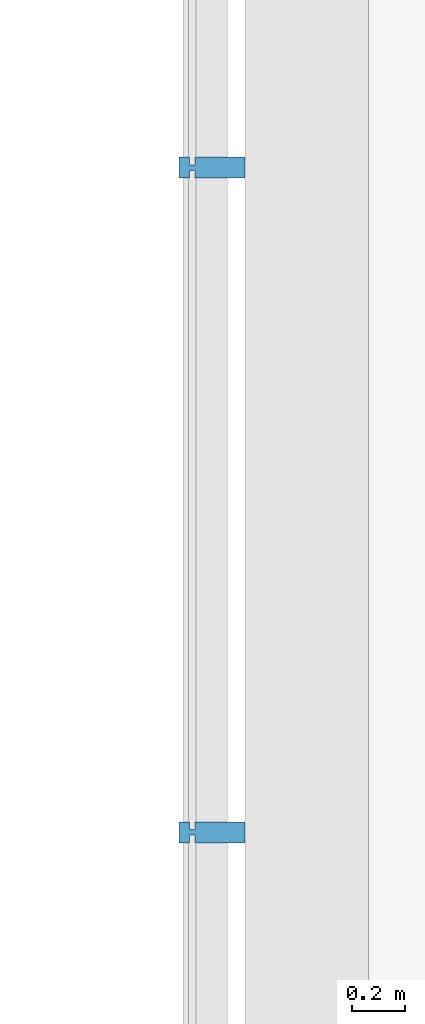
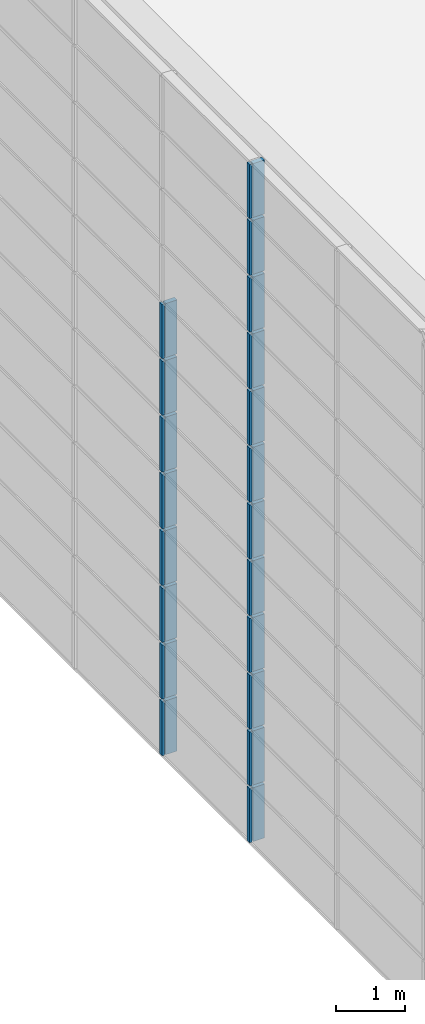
# One storey, part 73 of 105: 20 building element parts, 4 elements without a shape of their own.
"""IFC4 building model written with IfcOpenShell, lengths in millimetres."""

from ifc_helpers import new_model, entity, si_unit, converted_unit, derived_unit, direction, frame, origin_with_axes, place, context, subcontext, project, spatial, triangles, material, element, aggregate, save


model = new_model("IFC4")

# Units and contexts
model_context = context("Model", 3, precision=1e-05, world=origin_with_axes(), true_north=direction((0.0, 1.0)))
body_context = subcontext(model_context, "Body", "Model", "MODEL_VIEW")
ifc_project = project(units=[si_unit("LENGTHUNIT", "METRE", prefix="MILLI"), si_unit("AREAUNIT", "SQUARE_METRE"), si_unit("VOLUMEUNIT", "CUBIC_METRE"), converted_unit("PLANEANGLEUNIT", "DEGREE", entity("IfcLengthMeasure", 0.017453), si_unit("PLANEANGLEUNIT", "RADIAN"), dimensions=[0, 0, 0, 0, 0, 0, 0]), si_unit("SOLIDANGLEUNIT", "STERADIAN"), si_unit("MASSUNIT", "GRAM"), si_unit("TIMEUNIT", "SECOND"), si_unit("THERMODYNAMICTEMPERATUREUNIT", "DEGREE_CELSIUS"), si_unit("LUMINOUSINTENSITYUNIT", "LUMEN"), si_unit("POWERUNIT", "WATT"), derived_unit("THERMALTRANSMITTANCEUNIT", [(si_unit("POWERUNIT", "WATT"), 1), (si_unit("THERMODYNAMICTEMPERATUREUNIT", "KELVIN"), -1), (si_unit("AREAUNIT", "SQUARE_METRE"), -1)])], contexts=[model_context])

# Site, building, storey
site_placement = place(None, origin_with_axes())
site = spatial("IfcSite", under=ifc_project, at=site_placement, Name="Default Site", CompositionType="ELEMENT")
building_placement = place(site_placement, origin_with_axes())
building = spatial("IfcBuilding", under=site, at=building_placement, Name="Default Building", CompositionType="ELEMENT")
storey_placement = place(building_placement, origin_with_axes())
storey = spatial("IfcBuildingStorey", under=building, at=storey_placement, Name="OG - Story", CompositionType="ELEMENT", Elevation=0.0)

# Curtain wall, building element parts
curtain_wall_1_placement = place(storey_placement, origin_with_axes())
curtain_wall_1 = element("IfcCurtainWall", 1, at=curtain_wall_1_placement, inside=storey, Name="Fassade-003", PredefinedType="NOTDEFINED")
ifc_material = material(Name="Blech")
building_element_part_1_placement = place(curtain_wall_1_placement, frame((31551.391327, -51326.104944, 0.0), z_axis=(0.0, 0.0, 1.0), x_axis=(1.0, 0.0, 0.0)))
building_element_part_1 = element("IfcBuildingElementPart", 2, at=building_element_part_1_placement, material=ifc_material, Name="Blech", PredefinedType="NOTDEFINED", context=body_context, shape_type="Tessellation", body=[
    triangles([(200.0, 26486.316, 975.0), (10.0, 26486.316, 975.0), (200.0, 26566.316, 975.0), (10.0, 26516.316, 975.0), (10.0, 26536.316, 975.0), (-9.999, 26516.316, 975.0), (-9.999, 26536.316, 975.0), (-9.999, 26566.316, 975.0), (-9.999, 26486.316, 975.0), (-49.999, 26486.316, 975.0), (-49.999, 26566.316, 975.0), (10.0, 26566.316, 975.0), (10.0, 26536.316, 25.0), (-9.999, 26536.316, 25.0), (-9.999, 26566.316, 25.0), (-49.999, 26566.316, 25.0), (-49.999, 26486.316, 25.0), (-9.999, 26486.316, 25.0), (-9.999, 26516.316, 25.0), (10.0, 26516.316, 25.0), (10.0, 26486.316, 25.0), (200.0, 26486.316, 25.0), (200.0, 26566.316, 25.0), (10.0, 26566.316, 25.0)], [[1, 2, 3], [3, 2, 4], [3, 4, 5], [5, 4, 6], [5, 6, 7], [8, 9, 10], [8, 10, 11], [3, 5, 12], [5, 13, 14], [5, 14, 7], [7, 14, 15], [7, 15, 8], [15, 16, 11], [15, 11, 8], [10, 11, 16], [10, 16, 17], [18, 9, 10], [18, 10, 17], [9, 18, 19], [9, 19, 6], [4, 6, 19], [4, 19, 20], [2, 4, 20], [2, 20, 21], [2, 21, 22], [2, 22, 1], [3, 1, 22], [3, 22, 23], [12, 3, 23], [12, 23, 24], [12, 24, 13], [12, 13, 5], [23, 24, 22], [22, 24, 13], [22, 13, 20], [20, 13, 14], [20, 14, 19], [18, 15, 16], [18, 16, 17], [22, 20, 21]], closed=False),
])
building_element_part_2_placement = place(curtain_wall_1_placement, frame((31551.391327, -51326.104944, 0.0), z_axis=(0.0, 0.0, 1.0), x_axis=(1.0, 0.0, 0.0)))
building_element_part_2 = element("IfcBuildingElementPart", 3, at=building_element_part_2_placement, material=ifc_material, Name="Blech", PredefinedType="NOTDEFINED", context=body_context, shape_type="Tessellation", body=[
    triangles([(200.0, 29012.632, 975.0), (10.0, 29012.632, 975.0), (200.0, 29092.632, 975.0), (10.0, 29042.632, 975.0), (10.0, 29062.632, 975.0), (-9.999, 29042.632, 975.0), (-9.999, 29062.632, 975.0), (-9.999, 29092.632, 975.0), (-9.999, 29012.632, 975.0), (-49.999, 29012.632, 975.0), (-49.999, 29092.632, 975.0), (10.0, 29092.632, 975.0), (10.0, 29062.632, 25.0), (-9.999, 29062.632, 25.0), (-9.999, 29092.632, 25.0), (-49.999, 29092.632, 25.0), (-49.999, 29012.632, 25.0), (-9.999, 29012.632, 25.0), (-9.999, 29042.632, 25.0), (10.0, 29042.632, 25.0), (10.0, 29012.632, 25.0), (200.0, 29012.632, 25.0), (200.0, 29092.632, 25.0), (10.0, 29092.632, 25.0)], [[1, 2, 3], [3, 2, 4], [3, 4, 5], [5, 4, 6], [5, 6, 7], [8, 9, 10], [8, 10, 11], [3, 5, 12], [5, 13, 14], [5, 14, 7], [7, 14, 15], [7, 15, 8], [15, 16, 11], [15, 11, 8], [10, 11, 16], [10, 16, 17], [18, 9, 10], [18, 10, 17], [9, 18, 19], [9, 19, 6], [4, 6, 19], [4, 19, 20], [2, 4, 20], [2, 20, 21], [2, 21, 22], [2, 22, 1], [3, 1, 22], [3, 22, 23], [12, 3, 23], [12, 23, 24], [12, 24, 13], [12, 13, 5], [23, 24, 22], [22, 24, 13], [22, 13, 20], [20, 13, 14], [20, 14, 19], [18, 15, 16], [18, 16, 17], [22, 20, 21]], closed=False),
])
building_element_part_3_placement = place(curtain_wall_1_placement, frame((31551.391327, -51326.104944, 0.0), z_axis=(0.0, 0.0, 1.0), x_axis=(1.0, 0.0, 0.0)))
building_element_part_3 = element("IfcBuildingElementPart", 4, at=building_element_part_3_placement, material=ifc_material, Name="Blech", PredefinedType="NOTDEFINED", context=body_context, shape_type="Tessellation", body=[
    triangles([(200.0, 26486.316, 1975.0), (10.0, 26486.316, 1975.0), (200.0, 26566.316, 1975.0), (10.0, 26516.316, 1975.0), (10.0, 26536.316, 1975.0), (-9.999, 26516.316, 1975.0), (-9.999, 26536.316, 1975.0), (-9.999, 26566.316, 1975.0), (-9.999, 26486.316, 1975.0), (-49.999, 26486.316, 1975.0), (-49.999, 26566.316, 1975.0), (10.0, 26566.316, 1975.0), (10.0, 26536.316, 1025.0), (-9.999, 26536.316, 1025.0), (-9.999, 26566.316, 1025.0), (-49.999, 26566.316, 1025.0), (-49.999, 26486.316, 1025.0), (-9.999, 26486.316, 1025.0), (-9.999, 26516.316, 1025.0), (10.0, 26516.316, 1025.0), (10.0, 26486.316, 1025.0), (200.0, 26486.316, 1025.0), (200.0, 26566.316, 1025.0), (10.0, 26566.316, 1025.0)], [[1, 2, 3], [3, 2, 4], [3, 4, 5], [5, 4, 6], [5, 6, 7], [8, 9, 10], [8, 10, 11], [3, 5, 12], [5, 13, 14], [5, 14, 7], [7, 14, 15], [7, 15, 8], [15, 16, 11], [15, 11, 8], [10, 11, 16], [10, 16, 17], [18, 9, 10], [18, 10, 17], [9, 18, 19], [9, 19, 6], [4, 6, 19], [4, 19, 20], [2, 4, 20], [2, 20, 21], [2, 21, 22], [2, 22, 1], [3, 1, 22], [3, 22, 23], [12, 3, 23], [12, 23, 24], [12, 24, 13], [12, 13, 5], [23, 24, 22], [22, 24, 13], [22, 13, 20], [20, 13, 14], [20, 14, 19], [18, 15, 16], [18, 16, 17], [22, 20, 21]], closed=False),
])
building_element_part_4_placement = place(curtain_wall_1_placement, frame((31551.391327, -51326.104944, 0.0), z_axis=(0.0, 0.0, 1.0), x_axis=(1.0, 0.0, 0.0)))
building_element_part_4 = element("IfcBuildingElementPart", 5, at=building_element_part_4_placement, material=ifc_material, Name="Blech", PredefinedType="NOTDEFINED", context=body_context, shape_type="Tessellation", body=[
    triangles([(200.0, 29012.632, 1975.0), (10.0, 29012.632, 1975.0), (200.0, 29092.632, 1975.0), (10.0, 29042.632, 1975.0), (10.0, 29062.632, 1975.0), (-9.999, 29042.632, 1975.0), (-9.999, 29062.632, 1975.0), (-9.999, 29092.632, 1975.0), (-9.999, 29012.632, 1975.0), (-49.999, 29012.632, 1975.0), (-49.999, 29092.632, 1975.0), (10.0, 29092.632, 1975.0), (10.0, 29062.632, 1025.0), (-9.999, 29062.632, 1025.0), (-9.999, 29092.632, 1025.0), (-49.999, 29092.632, 1025.0), (-49.999, 29012.632, 1025.0), (-9.999, 29012.632, 1025.0), (-9.999, 29042.632, 1025.0), (10.0, 29042.632, 1025.0), (10.0, 29012.632, 1025.0), (200.0, 29012.632, 1025.0), (200.0, 29092.632, 1025.0), (10.0, 29092.632, 1025.0)], [[1, 2, 3], [3, 2, 4], [3, 4, 5], [5, 4, 6], [5, 6, 7], [8, 9, 10], [8, 10, 11], [3, 5, 12], [5, 13, 14], [5, 14, 7], [7, 14, 15], [7, 15, 8], [15, 16, 11], [15, 11, 8], [10, 11, 16], [10, 16, 17], [18, 9, 10], [18, 10, 17], [9, 18, 19], [9, 19, 6], [4, 6, 19], [4, 19, 20], [2, 4, 20], [2, 20, 21], [2, 21, 22], [2, 22, 1], [3, 1, 22], [3, 22, 23], [12, 3, 23], [12, 23, 24], [12, 24, 13], [12, 13, 5], [23, 24, 22], [22, 24, 13], [22, 13, 20], [20, 13, 14], [20, 14, 19], [18, 15, 16], [18, 16, 17], [22, 20, 21]], closed=False),
])
building_element_part_5_placement = place(curtain_wall_1_placement, frame((31551.391327, -51326.104944, 0.0), z_axis=(0.0, 0.0, 1.0), x_axis=(1.0, 0.0, 0.0)))
building_element_part_5 = element("IfcBuildingElementPart", 6, at=building_element_part_5_placement, material=ifc_material, Name="Blech", PredefinedType="NOTDEFINED", context=body_context, shape_type="Tessellation", body=[
    triangles([(200.0, 26486.316, 2975.0), (10.0, 26486.316, 2975.0), (200.0, 26566.316, 2975.0), (10.0, 26516.316, 2975.0), (10.0, 26536.316, 2975.0), (-9.999, 26516.316, 2975.0), (-9.999, 26536.316, 2975.0), (-9.999, 26566.316, 2975.0), (-9.999, 26486.316, 2975.0), (-49.999, 26486.316, 2975.0), (-49.999, 26566.316, 2975.0), (10.0, 26566.316, 2975.0), (10.0, 26536.316, 2025.0), (-9.999, 26536.316, 2025.0), (-9.999, 26566.316, 2025.0), (-49.999, 26566.316, 2025.0), (-49.999, 26486.316, 2025.0), (-9.999, 26486.316, 2025.0), (-9.999, 26516.316, 2025.0), (10.0, 26516.316, 2025.0), (10.0, 26486.316, 2025.0), (200.0, 26486.316, 2025.0), (200.0, 26566.316, 2025.0), (10.0, 26566.316, 2025.0)], [[1, 2, 3], [3, 2, 4], [3, 4, 5], [5, 4, 6], [5, 6, 7], [8, 9, 10], [8, 10, 11], [3, 5, 12], [5, 13, 14], [5, 14, 7], [7, 14, 15], [7, 15, 8], [15, 16, 11], [15, 11, 8], [10, 11, 16], [10, 16, 17], [18, 9, 10], [18, 10, 17], [9, 18, 19], [9, 19, 6], [4, 6, 19], [4, 19, 20], [2, 4, 20], [2, 20, 21], [2, 21, 22], [2, 22, 1], [3, 1, 22], [3, 22, 23], [12, 3, 23], [12, 23, 24], [12, 24, 13], [12, 13, 5], [23, 24, 22], [22, 24, 13], [22, 13, 20], [20, 13, 14], [20, 14, 19], [18, 15, 16], [18, 16, 17], [22, 20, 21]], closed=False),
])
building_element_part_6_placement = place(curtain_wall_1_placement, frame((31551.391327, -51326.104944, 0.0), z_axis=(0.0, 0.0, 1.0), x_axis=(1.0, 0.0, 0.0)))
building_element_part_6 = element("IfcBuildingElementPart", 7, at=building_element_part_6_placement, material=ifc_material, Name="Blech", PredefinedType="NOTDEFINED", context=body_context, shape_type="Tessellation", body=[
    triangles([(200.0, 29012.632, 2975.0), (10.0, 29012.632, 2975.0), (200.0, 29092.632, 2975.0), (10.0, 29042.632, 2975.0), (10.0, 29062.632, 2975.0), (-9.999, 29042.632, 2975.0), (-9.999, 29062.632, 2975.0), (-9.999, 29092.632, 2975.0), (-9.999, 29012.632, 2975.0), (-49.999, 29012.632, 2975.0), (-49.999, 29092.632, 2975.0), (10.0, 29092.632, 2975.0), (10.0, 29062.632, 2025.0), (-9.999, 29062.632, 2025.0), (-9.999, 29092.632, 2025.0), (-49.999, 29092.632, 2025.0), (-49.999, 29012.632, 2025.0), (-9.999, 29012.632, 2025.0), (-9.999, 29042.632, 2025.0), (10.0, 29042.632, 2025.0), (10.0, 29012.632, 2025.0), (200.0, 29012.632, 2025.0), (200.0, 29092.632, 2025.0), (10.0, 29092.632, 2025.0)], [[1, 2, 3], [3, 2, 4], [3, 4, 5], [5, 4, 6], [5, 6, 7], [8, 9, 10], [8, 10, 11], [3, 5, 12], [5, 13, 14], [5, 14, 7], [7, 14, 15], [7, 15, 8], [15, 16, 11], [15, 11, 8], [10, 11, 16], [10, 16, 17], [18, 9, 10], [18, 10, 17], [9, 18, 19], [9, 19, 6], [4, 6, 19], [4, 19, 20], [2, 4, 20], [2, 20, 21], [2, 21, 22], [2, 22, 1], [3, 1, 22], [3, 22, 23], [12, 3, 23], [12, 23, 24], [12, 24, 13], [12, 13, 5], [23, 24, 22], [22, 24, 13], [22, 13, 20], [20, 13, 14], [20, 14, 19], [18, 15, 16], [18, 16, 17], [22, 20, 21]], closed=False),
])
aggregate(curtain_wall_1, [building_element_part_1, building_element_part_2, building_element_part_3, building_element_part_4, building_element_part_5, building_element_part_6])

curtain_wall_2_placement = place(storey_placement, origin_with_axes())
curtain_wall_2 = element("IfcCurtainWall", 8, at=curtain_wall_2_placement, inside=storey, Name="Fassade-003", PredefinedType="NOTDEFINED")
building_element_part_7_placement = place(curtain_wall_2_placement, frame((31551.391327, -51326.104944, 3000.0), z_axis=(0.0, 0.0, 1.0), x_axis=(1.0, 0.0, 0.0)))
building_element_part_7 = element("IfcBuildingElementPart", 9, at=building_element_part_7_placement, material=ifc_material, Name="Blech", PredefinedType="NOTDEFINED", context=body_context, shape_type="Tessellation", body=[
    triangles([(200.0, 26486.316, 975.0), (10.0, 26486.316, 975.0), (200.0, 26566.316, 975.0), (10.0, 26516.316, 975.0), (10.0, 26536.316, 975.0), (-9.999, 26516.316, 975.0), (-9.999, 26536.316, 975.0), (-9.999, 26566.316, 975.0), (-9.999, 26486.316, 975.0), (-49.999, 26486.316, 975.0), (-49.999, 26566.316, 975.0), (10.0, 26566.316, 975.0), (10.0, 26536.316, 25.0), (-9.999, 26536.316, 25.0), (-9.999, 26566.316, 25.0), (-49.999, 26566.316, 25.0), (-49.999, 26486.316, 25.0), (-9.999, 26486.316, 25.0), (-9.999, 26516.316, 25.0), (10.0, 26516.316, 25.0), (10.0, 26486.316, 25.0), (200.0, 26486.316, 25.0), (200.0, 26566.316, 25.0), (10.0, 26566.316, 25.0)], [[1, 2, 3], [3, 2, 4], [3, 4, 5], [5, 4, 6], [5, 6, 7], [8, 9, 10], [8, 10, 11], [3, 5, 12], [5, 13, 14], [5, 14, 7], [7, 14, 15], [7, 15, 8], [15, 16, 11], [15, 11, 8], [10, 11, 16], [10, 16, 17], [18, 9, 10], [18, 10, 17], [9, 18, 19], [9, 19, 6], [4, 6, 19], [4, 19, 20], [2, 4, 20], [2, 20, 21], [2, 21, 22], [2, 22, 1], [3, 1, 22], [3, 22, 23], [12, 3, 23], [12, 23, 24], [12, 24, 13], [12, 13, 5], [23, 24, 22], [22, 24, 13], [22, 13, 20], [20, 13, 14], [20, 14, 19], [18, 15, 16], [18, 16, 17], [22, 20, 21]], closed=False),
])
building_element_part_8_placement = place(curtain_wall_2_placement, frame((31551.391327, -51326.104944, 3000.0), z_axis=(0.0, 0.0, 1.0), x_axis=(1.0, 0.0, 0.0)))
building_element_part_8 = element("IfcBuildingElementPart", 10, at=building_element_part_8_placement, material=ifc_material, Name="Blech", PredefinedType="NOTDEFINED", context=body_context, shape_type="Tessellation", body=[
    triangles([(200.0, 29012.632, 975.0), (10.0, 29012.632, 975.0), (200.0, 29092.632, 975.0), (10.0, 29042.632, 975.0), (10.0, 29062.632, 975.0), (-9.999, 29042.632, 975.0), (-9.999, 29062.632, 975.0), (-9.999, 29092.632, 975.0), (-9.999, 29012.632, 975.0), (-49.999, 29012.632, 975.0), (-49.999, 29092.632, 975.0), (10.0, 29092.632, 975.0), (10.0, 29062.632, 25.0), (-9.999, 29062.632, 25.0), (-9.999, 29092.632, 25.0), (-49.999, 29092.632, 25.0), (-49.999, 29012.632, 25.0), (-9.999, 29012.632, 25.0), (-9.999, 29042.632, 25.0), (10.0, 29042.632, 25.0), (10.0, 29012.632, 25.0), (200.0, 29012.632, 25.0), (200.0, 29092.632, 25.0), (10.0, 29092.632, 25.0)], [[1, 2, 3], [3, 2, 4], [3, 4, 5], [5, 4, 6], [5, 6, 7], [8, 9, 10], [8, 10, 11], [3, 5, 12], [5, 13, 14], [5, 14, 7], [7, 14, 15], [7, 15, 8], [15, 16, 11], [15, 11, 8], [10, 11, 16], [10, 16, 17], [18, 9, 10], [18, 10, 17], [9, 18, 19], [9, 19, 6], [4, 6, 19], [4, 19, 20], [2, 4, 20], [2, 20, 21], [2, 21, 22], [2, 22, 1], [3, 1, 22], [3, 22, 23], [12, 3, 23], [12, 23, 24], [12, 24, 13], [12, 13, 5], [23, 24, 22], [22, 24, 13], [22, 13, 20], [20, 13, 14], [20, 14, 19], [18, 15, 16], [18, 16, 17], [22, 20, 21]], closed=False),
])
building_element_part_9_placement = place(curtain_wall_2_placement, frame((31551.391327, -51326.104944, 3000.0), z_axis=(0.0, 0.0, 1.0), x_axis=(1.0, 0.0, 0.0)))
building_element_part_9 = element("IfcBuildingElementPart", 11, at=building_element_part_9_placement, material=ifc_material, Name="Blech", PredefinedType="NOTDEFINED", context=body_context, shape_type="Tessellation", body=[
    triangles([(200.0, 26486.316, 1975.0), (10.0, 26486.316, 1975.0), (200.0, 26566.316, 1975.0), (10.0, 26516.316, 1975.0), (10.0, 26536.316, 1975.0), (-9.999, 26516.316, 1975.0), (-9.999, 26536.316, 1975.0), (-9.999, 26566.316, 1975.0), (-9.999, 26486.316, 1975.0), (-49.999, 26486.316, 1975.0), (-49.999, 26566.316, 1975.0), (10.0, 26566.316, 1975.0), (10.0, 26536.316, 1025.0), (-9.999, 26536.316, 1025.0), (-9.999, 26566.316, 1025.0), (-49.999, 26566.316, 1025.0), (-49.999, 26486.316, 1025.0), (-9.999, 26486.316, 1025.0), (-9.999, 26516.316, 1025.0), (10.0, 26516.316, 1025.0), (10.0, 26486.316, 1025.0), (200.0, 26486.316, 1025.0), (200.0, 26566.316, 1025.0), (10.0, 26566.316, 1025.0)], [[1, 2, 3], [3, 2, 4], [3, 4, 5], [5, 4, 6], [5, 6, 7], [8, 9, 10], [8, 10, 11], [3, 5, 12], [5, 13, 14], [5, 14, 7], [7, 14, 15], [7, 15, 8], [15, 16, 11], [15, 11, 8], [10, 11, 16], [10, 16, 17], [18, 9, 10], [18, 10, 17], [9, 18, 19], [9, 19, 6], [4, 6, 19], [4, 19, 20], [2, 4, 20], [2, 20, 21], [2, 21, 22], [2, 22, 1], [3, 1, 22], [3, 22, 23], [12, 3, 23], [12, 23, 24], [12, 24, 13], [12, 13, 5], [23, 24, 22], [22, 24, 13], [22, 13, 20], [20, 13, 14], [20, 14, 19], [18, 15, 16], [18, 16, 17], [22, 20, 21]], closed=False),
])
building_element_part_10_placement = place(curtain_wall_2_placement, frame((31551.391327, -51326.104944, 3000.0), z_axis=(0.0, 0.0, 1.0), x_axis=(1.0, 0.0, 0.0)))
building_element_part_10 = element("IfcBuildingElementPart", 12, at=building_element_part_10_placement, material=ifc_material, Name="Blech", PredefinedType="NOTDEFINED", context=body_context, shape_type="Tessellation", body=[
    triangles([(200.0, 29012.632, 1975.0), (10.0, 29012.632, 1975.0), (200.0, 29092.632, 1975.0), (10.0, 29042.632, 1975.0), (10.0, 29062.632, 1975.0), (-9.999, 29042.632, 1975.0), (-9.999, 29062.632, 1975.0), (-9.999, 29092.632, 1975.0), (-9.999, 29012.632, 1975.0), (-49.999, 29012.632, 1975.0), (-49.999, 29092.632, 1975.0), (10.0, 29092.632, 1975.0), (10.0, 29062.632, 1025.0), (-9.999, 29062.632, 1025.0), (-9.999, 29092.632, 1025.0), (-49.999, 29092.632, 1025.0), (-49.999, 29012.632, 1025.0), (-9.999, 29012.632, 1025.0), (-9.999, 29042.632, 1025.0), (10.0, 29042.632, 1025.0), (10.0, 29012.632, 1025.0), (200.0, 29012.632, 1025.0), (200.0, 29092.632, 1025.0), (10.0, 29092.632, 1025.0)], [[1, 2, 3], [3, 2, 4], [3, 4, 5], [5, 4, 6], [5, 6, 7], [8, 9, 10], [8, 10, 11], [3, 5, 12], [5, 13, 14], [5, 14, 7], [7, 14, 15], [7, 15, 8], [15, 16, 11], [15, 11, 8], [10, 11, 16], [10, 16, 17], [18, 9, 10], [18, 10, 17], [9, 18, 19], [9, 19, 6], [4, 6, 19], [4, 19, 20], [2, 4, 20], [2, 20, 21], [2, 21, 22], [2, 22, 1], [3, 1, 22], [3, 22, 23], [12, 3, 23], [12, 23, 24], [12, 24, 13], [12, 13, 5], [23, 24, 22], [22, 24, 13], [22, 13, 20], [20, 13, 14], [20, 14, 19], [18, 15, 16], [18, 16, 17], [22, 20, 21]], closed=False),
])
building_element_part_11_placement = place(curtain_wall_2_placement, frame((31551.391327, -51326.104944, 3000.0), z_axis=(0.0, 0.0, 1.0), x_axis=(1.0, 0.0, 0.0)))
building_element_part_11 = element("IfcBuildingElementPart", 13, at=building_element_part_11_placement, material=ifc_material, Name="Blech", PredefinedType="NOTDEFINED", context=body_context, shape_type="Tessellation", body=[
    triangles([(200.0, 26486.316, 2975.0), (10.0, 26486.316, 2975.0), (200.0, 26566.316, 2975.0), (10.0, 26516.316, 2975.0), (10.0, 26536.316, 2975.0), (-9.999, 26516.316, 2975.0), (-9.999, 26536.316, 2975.0), (-9.999, 26566.316, 2975.0), (-9.999, 26486.316, 2975.0), (-49.999, 26486.316, 2975.0), (-49.999, 26566.316, 2975.0), (10.0, 26566.316, 2975.0), (10.0, 26536.316, 2025.0), (-9.999, 26536.316, 2025.0), (-9.999, 26566.316, 2025.0), (-49.999, 26566.316, 2025.0), (-49.999, 26486.316, 2025.0), (-9.999, 26486.316, 2025.0), (-9.999, 26516.316, 2025.0), (10.0, 26516.316, 2025.0), (10.0, 26486.316, 2025.0), (200.0, 26486.316, 2025.0), (200.0, 26566.316, 2025.0), (10.0, 26566.316, 2025.0)], [[1, 2, 3], [3, 2, 4], [3, 4, 5], [5, 4, 6], [5, 6, 7], [8, 9, 10], [8, 10, 11], [3, 5, 12], [5, 13, 14], [5, 14, 7], [7, 14, 15], [7, 15, 8], [15, 16, 11], [15, 11, 8], [10, 11, 16], [10, 16, 17], [18, 9, 10], [18, 10, 17], [9, 18, 19], [9, 19, 6], [4, 6, 19], [4, 19, 20], [2, 4, 20], [2, 20, 21], [2, 21, 22], [2, 22, 1], [3, 1, 22], [3, 22, 23], [12, 3, 23], [12, 23, 24], [12, 24, 13], [12, 13, 5], [23, 24, 22], [22, 24, 13], [22, 13, 20], [20, 13, 14], [20, 14, 19], [18, 15, 16], [18, 16, 17], [22, 20, 21]], closed=False),
])
building_element_part_12_placement = place(curtain_wall_2_placement, frame((31551.391327, -51326.104944, 3000.0), z_axis=(0.0, 0.0, 1.0), x_axis=(1.0, 0.0, 0.0)))
building_element_part_12 = element("IfcBuildingElementPart", 14, at=building_element_part_12_placement, material=ifc_material, Name="Blech", PredefinedType="NOTDEFINED", context=body_context, shape_type="Tessellation", body=[
    triangles([(200.0, 29012.632, 2975.0), (10.0, 29012.632, 2975.0), (200.0, 29092.632, 2975.0), (10.0, 29042.632, 2975.0), (10.0, 29062.632, 2975.0), (-9.999, 29042.632, 2975.0), (-9.999, 29062.632, 2975.0), (-9.999, 29092.632, 2975.0), (-9.999, 29012.632, 2975.0), (-49.999, 29012.632, 2975.0), (-49.999, 29092.632, 2975.0), (10.0, 29092.632, 2975.0), (10.0, 29062.632, 2025.0), (-9.999, 29062.632, 2025.0), (-9.999, 29092.632, 2025.0), (-49.999, 29092.632, 2025.0), (-49.999, 29012.632, 2025.0), (-9.999, 29012.632, 2025.0), (-9.999, 29042.632, 2025.0), (10.0, 29042.632, 2025.0), (10.0, 29012.632, 2025.0), (200.0, 29012.632, 2025.0), (200.0, 29092.632, 2025.0), (10.0, 29092.632, 2025.0)], [[1, 2, 3], [3, 2, 4], [3, 4, 5], [5, 4, 6], [5, 6, 7], [8, 9, 10], [8, 10, 11], [3, 5, 12], [5, 13, 14], [5, 14, 7], [7, 14, 15], [7, 15, 8], [15, 16, 11], [15, 11, 8], [10, 11, 16], [10, 16, 17], [18, 9, 10], [18, 10, 17], [9, 18, 19], [9, 19, 6], [4, 6, 19], [4, 19, 20], [2, 4, 20], [2, 20, 21], [2, 21, 22], [2, 22, 1], [3, 1, 22], [3, 22, 23], [12, 3, 23], [12, 23, 24], [12, 24, 13], [12, 13, 5], [23, 24, 22], [22, 24, 13], [22, 13, 20], [20, 13, 14], [20, 14, 19], [18, 15, 16], [18, 16, 17], [22, 20, 21]], closed=False),
])
aggregate(curtain_wall_2, [building_element_part_7, building_element_part_8, building_element_part_9, building_element_part_10, building_element_part_11, building_element_part_12])

curtain_wall_3_placement = place(storey_placement, origin_with_axes())
curtain_wall_3 = element("IfcCurtainWall", 15, at=curtain_wall_3_placement, inside=storey, Name="Fassade-003", PredefinedType="NOTDEFINED")
building_element_part_13_placement = place(curtain_wall_3_placement, frame((31551.391327, -51326.104944, 6000.0), z_axis=(0.0, 0.0, 1.0), x_axis=(1.0, 0.0, 0.0)))
building_element_part_13 = element("IfcBuildingElementPart", 16, at=building_element_part_13_placement, material=ifc_material, Name="Blech", PredefinedType="NOTDEFINED", context=body_context, shape_type="Tessellation", body=[
    triangles([(200.0, 26486.316, 975.0), (10.0, 26486.316, 975.0), (200.0, 26566.316, 975.0), (10.0, 26516.316, 975.0), (10.0, 26536.316, 975.0), (-9.999, 26516.316, 975.0), (-9.999, 26536.316, 975.0), (-9.999, 26566.316, 975.0), (-9.999, 26486.316, 975.0), (-49.999, 26486.316, 975.0), (-49.999, 26566.316, 975.0), (10.0, 26566.316, 975.0), (10.0, 26536.316, 25.0), (-9.999, 26536.316, 25.0), (-9.999, 26566.316, 25.0), (-49.999, 26566.316, 25.0), (-49.999, 26486.316, 25.0), (-9.999, 26486.316, 25.0), (-9.999, 26516.316, 25.0), (10.0, 26516.316, 25.0), (10.0, 26486.316, 25.0), (200.0, 26486.316, 25.0), (200.0, 26566.316, 25.0), (10.0, 26566.316, 25.0)], [[1, 2, 3], [3, 2, 4], [3, 4, 5], [5, 4, 6], [5, 6, 7], [8, 9, 10], [8, 10, 11], [3, 5, 12], [5, 13, 14], [5, 14, 7], [7, 14, 15], [7, 15, 8], [15, 16, 11], [15, 11, 8], [10, 11, 16], [10, 16, 17], [18, 9, 10], [18, 10, 17], [9, 18, 19], [9, 19, 6], [4, 6, 19], [4, 19, 20], [2, 4, 20], [2, 20, 21], [2, 21, 22], [2, 22, 1], [3, 1, 22], [3, 22, 23], [12, 3, 23], [12, 23, 24], [12, 24, 13], [12, 13, 5], [23, 24, 22], [22, 24, 13], [22, 13, 20], [20, 13, 14], [20, 14, 19], [18, 15, 16], [18, 16, 17], [22, 20, 21]], closed=False),
])
building_element_part_14_placement = place(curtain_wall_3_placement, frame((31551.391327, -51326.104944, 6000.0), z_axis=(0.0, 0.0, 1.0), x_axis=(1.0, 0.0, 0.0)))
building_element_part_14 = element("IfcBuildingElementPart", 17, at=building_element_part_14_placement, material=ifc_material, Name="Blech", PredefinedType="NOTDEFINED", context=body_context, shape_type="Tessellation", body=[
    triangles([(200.0, 29012.632, 975.0), (10.0, 29012.632, 975.0), (200.0, 29092.632, 975.0), (10.0, 29042.632, 975.0), (10.0, 29062.632, 975.0), (-9.999, 29042.632, 975.0), (-9.999, 29062.632, 975.0), (-9.999, 29092.632, 975.0), (-9.999, 29012.632, 975.0), (-49.999, 29012.632, 975.0), (-49.999, 29092.632, 975.0), (10.0, 29092.632, 975.0), (10.0, 29062.632, 25.0), (-9.999, 29062.632, 25.0), (-9.999, 29092.632, 25.0), (-49.999, 29092.632, 25.0), (-49.999, 29012.632, 25.0), (-9.999, 29012.632, 25.0), (-9.999, 29042.632, 25.0), (10.0, 29042.632, 25.0), (10.0, 29012.632, 25.0), (200.0, 29012.632, 25.0), (200.0, 29092.632, 25.0), (10.0, 29092.632, 25.0)], [[1, 2, 3], [3, 2, 4], [3, 4, 5], [5, 4, 6], [5, 6, 7], [8, 9, 10], [8, 10, 11], [3, 5, 12], [5, 13, 14], [5, 14, 7], [7, 14, 15], [7, 15, 8], [15, 16, 11], [15, 11, 8], [10, 11, 16], [10, 16, 17], [18, 9, 10], [18, 10, 17], [9, 18, 19], [9, 19, 6], [4, 6, 19], [4, 19, 20], [2, 4, 20], [2, 20, 21], [2, 21, 22], [2, 22, 1], [3, 1, 22], [3, 22, 23], [12, 3, 23], [12, 23, 24], [12, 24, 13], [12, 13, 5], [23, 24, 22], [22, 24, 13], [22, 13, 20], [20, 13, 14], [20, 14, 19], [18, 15, 16], [18, 16, 17], [22, 20, 21]], closed=False),
])
building_element_part_15_placement = place(curtain_wall_3_placement, frame((31551.391327, -51326.104944, 6000.0), z_axis=(0.0, 0.0, 1.0), x_axis=(1.0, 0.0, 0.0)))
building_element_part_15 = element("IfcBuildingElementPart", 18, at=building_element_part_15_placement, material=ifc_material, Name="Blech", PredefinedType="NOTDEFINED", context=body_context, shape_type="Tessellation", body=[
    triangles([(200.0, 26486.316, 1975.0), (10.0, 26486.316, 1975.0), (200.0, 26566.316, 1975.0), (10.0, 26516.316, 1975.0), (10.0, 26536.316, 1975.0), (-9.999, 26516.316, 1975.0), (-9.999, 26536.316, 1975.0), (-9.999, 26566.316, 1975.0), (-9.999, 26486.316, 1975.0), (-49.999, 26486.316, 1975.0), (-49.999, 26566.316, 1975.0), (10.0, 26566.316, 1975.0), (10.0, 26536.316, 1025.0), (-9.999, 26536.316, 1025.0), (-9.999, 26566.316, 1025.0), (-49.999, 26566.316, 1025.0), (-49.999, 26486.316, 1025.0), (-9.999, 26486.316, 1025.0), (-9.999, 26516.316, 1025.0), (10.0, 26516.316, 1025.0), (10.0, 26486.316, 1025.0), (200.0, 26486.316, 1025.0), (200.0, 26566.316, 1025.0), (10.0, 26566.316, 1025.0)], [[1, 2, 3], [3, 2, 4], [3, 4, 5], [5, 4, 6], [5, 6, 7], [8, 9, 10], [8, 10, 11], [3, 5, 12], [5, 13, 14], [5, 14, 7], [7, 14, 15], [7, 15, 8], [15, 16, 11], [15, 11, 8], [10, 11, 16], [10, 16, 17], [18, 9, 10], [18, 10, 17], [9, 18, 19], [9, 19, 6], [4, 6, 19], [4, 19, 20], [2, 4, 20], [2, 20, 21], [2, 21, 22], [2, 22, 1], [3, 1, 22], [3, 22, 23], [12, 3, 23], [12, 23, 24], [12, 24, 13], [12, 13, 5], [23, 24, 22], [22, 24, 13], [22, 13, 20], [20, 13, 14], [20, 14, 19], [18, 15, 16], [18, 16, 17], [22, 20, 21]], closed=False),
])
building_element_part_16_placement = place(curtain_wall_3_placement, frame((31551.391327, -51326.104944, 6000.0), z_axis=(0.0, 0.0, 1.0), x_axis=(1.0, 0.0, 0.0)))
building_element_part_16 = element("IfcBuildingElementPart", 19, at=building_element_part_16_placement, material=ifc_material, Name="Blech", PredefinedType="NOTDEFINED", context=body_context, shape_type="Tessellation", body=[
    triangles([(200.0, 29012.632, 1975.0), (10.0, 29012.632, 1975.0), (200.0, 29092.632, 1975.0), (10.0, 29042.632, 1975.0), (10.0, 29062.632, 1975.0), (-9.999, 29042.632, 1975.0), (-9.999, 29062.632, 1975.0), (-9.999, 29092.632, 1975.0), (-9.999, 29012.632, 1975.0), (-49.999, 29012.632, 1975.0), (-49.999, 29092.632, 1975.0), (10.0, 29092.632, 1975.0), (10.0, 29062.632, 1025.0), (-9.999, 29062.632, 1025.0), (-9.999, 29092.632, 1025.0), (-49.999, 29092.632, 1025.0), (-49.999, 29012.632, 1025.0), (-9.999, 29012.632, 1025.0), (-9.999, 29042.632, 1025.0), (10.0, 29042.632, 1025.0), (10.0, 29012.632, 1025.0), (200.0, 29012.632, 1025.0), (200.0, 29092.632, 1025.0), (10.0, 29092.632, 1025.0)], [[1, 2, 3], [3, 2, 4], [3, 4, 5], [5, 4, 6], [5, 6, 7], [8, 9, 10], [8, 10, 11], [3, 5, 12], [5, 13, 14], [5, 14, 7], [7, 14, 15], [7, 15, 8], [15, 16, 11], [15, 11, 8], [10, 11, 16], [10, 16, 17], [18, 9, 10], [18, 10, 17], [9, 18, 19], [9, 19, 6], [4, 6, 19], [4, 19, 20], [2, 4, 20], [2, 20, 21], [2, 21, 22], [2, 22, 1], [3, 1, 22], [3, 22, 23], [12, 3, 23], [12, 23, 24], [12, 24, 13], [12, 13, 5], [23, 24, 22], [22, 24, 13], [22, 13, 20], [20, 13, 14], [20, 14, 19], [18, 15, 16], [18, 16, 17], [22, 20, 21]], closed=False),
])
building_element_part_17_placement = place(curtain_wall_3_placement, frame((31551.391327, -51326.104944, 6000.0), z_axis=(0.0, 0.0, 1.0), x_axis=(1.0, 0.0, 0.0)))
building_element_part_17 = element("IfcBuildingElementPart", 20, at=building_element_part_17_placement, material=ifc_material, Name="Blech", PredefinedType="NOTDEFINED", context=body_context, shape_type="Tessellation", body=[
    triangles([(200.0, 26486.316, 2975.0), (10.0, 26486.316, 2975.0), (200.0, 26566.316, 2975.0), (10.0, 26516.316, 2975.0), (10.0, 26536.316, 2975.0), (-9.999, 26516.316, 2975.0), (-9.999, 26536.316, 2975.0), (-9.999, 26566.316, 2975.0), (-9.999, 26486.316, 2975.0), (-49.999, 26486.316, 2975.0), (-49.999, 26566.316, 2975.0), (10.0, 26566.316, 2975.0), (10.0, 26536.316, 2025.0), (-9.999, 26536.316, 2025.0), (-9.999, 26566.316, 2025.0), (-49.999, 26566.316, 2025.0), (-49.999, 26486.316, 2025.0), (-9.999, 26486.316, 2025.0), (-9.999, 26516.316, 2025.0), (10.0, 26516.316, 2025.0), (10.0, 26486.316, 2025.0), (200.0, 26486.316, 2025.0), (200.0, 26566.316, 2025.0), (10.0, 26566.316, 2025.0)], [[1, 2, 3], [3, 2, 4], [3, 4, 5], [5, 4, 6], [5, 6, 7], [8, 9, 10], [8, 10, 11], [3, 5, 12], [5, 13, 14], [5, 14, 7], [7, 14, 15], [7, 15, 8], [15, 16, 11], [15, 11, 8], [10, 11, 16], [10, 16, 17], [18, 9, 10], [18, 10, 17], [9, 18, 19], [9, 19, 6], [4, 6, 19], [4, 19, 20], [2, 4, 20], [2, 20, 21], [2, 21, 22], [2, 22, 1], [3, 1, 22], [3, 22, 23], [12, 3, 23], [12, 23, 24], [12, 24, 13], [12, 13, 5], [23, 24, 22], [22, 24, 13], [22, 13, 20], [20, 13, 14], [20, 14, 19], [18, 15, 16], [18, 16, 17], [22, 20, 21]], closed=False),
])
aggregate(curtain_wall_3, [building_element_part_13, building_element_part_14, building_element_part_15, building_element_part_16, building_element_part_17])

curtain_wall_4_placement = place(storey_placement, origin_with_axes())
curtain_wall_4 = element("IfcCurtainWall", 21, at=curtain_wall_4_placement, inside=storey, Name="Fassade-003", PredefinedType="NOTDEFINED")
building_element_part_18_placement = place(curtain_wall_4_placement, frame((31551.391327, -51326.104944, 9000.0), z_axis=(0.0, 0.0, 1.0), x_axis=(1.0, 0.0, 0.0)))
building_element_part_18 = element("IfcBuildingElementPart", 22, at=building_element_part_18_placement, material=ifc_material, Name="Blech", PredefinedType="NOTDEFINED", context=body_context, shape_type="Tessellation", body=[
    triangles([(200.0, 26486.316, 975.0), (10.0, 26486.316, 975.0), (200.0, 26566.316, 975.0), (10.0, 26516.316, 975.0), (10.0, 26536.316, 975.0), (-9.999, 26516.316, 975.0), (-9.999, 26536.316, 975.0), (-9.999, 26566.316, 975.0), (-9.999, 26486.316, 975.0), (-49.999, 26486.316, 975.0), (-49.999, 26566.316, 975.0), (10.0, 26566.316, 975.0), (10.0, 26536.316, 25.0), (-9.999, 26536.316, 25.0), (-9.999, 26566.316, 25.0), (-49.999, 26566.316, 25.0), (-49.999, 26486.316, 25.0), (-9.999, 26486.316, 25.0), (-9.999, 26516.316, 25.0), (10.0, 26516.316, 25.0), (10.0, 26486.316, 25.0), (200.0, 26486.316, 25.0), (200.0, 26566.316, 25.0), (10.0, 26566.316, 25.0)], [[1, 2, 3], [3, 2, 4], [3, 4, 5], [5, 4, 6], [5, 6, 7], [8, 9, 10], [8, 10, 11], [3, 5, 12], [5, 13, 14], [5, 14, 7], [7, 14, 15], [7, 15, 8], [15, 16, 11], [15, 11, 8], [10, 11, 16], [10, 16, 17], [18, 9, 10], [18, 10, 17], [9, 18, 19], [9, 19, 6], [4, 6, 19], [4, 19, 20], [2, 4, 20], [2, 20, 21], [2, 21, 22], [2, 22, 1], [3, 1, 22], [3, 22, 23], [12, 3, 23], [12, 23, 24], [12, 24, 13], [12, 13, 5], [23, 24, 22], [22, 24, 13], [22, 13, 20], [20, 13, 14], [20, 14, 19], [18, 15, 16], [18, 16, 17], [22, 20, 21]], closed=False),
])
building_element_part_19_placement = place(curtain_wall_4_placement, frame((31551.391327, -51326.104944, 9000.0), z_axis=(0.0, 0.0, 1.0), x_axis=(1.0, 0.0, 0.0)))
building_element_part_19 = element("IfcBuildingElementPart", 23, at=building_element_part_19_placement, material=ifc_material, Name="Blech", PredefinedType="NOTDEFINED", context=body_context, shape_type="Tessellation", body=[
    triangles([(200.0, 26486.316, 1975.0), (10.0, 26486.316, 1975.0), (200.0, 26566.316, 1975.0), (10.0, 26516.316, 1975.0), (10.0, 26536.316, 1975.0), (-9.999, 26516.316, 1975.0), (-9.999, 26536.316, 1975.0), (-9.999, 26566.316, 1975.0), (-9.999, 26486.316, 1975.0), (-49.999, 26486.316, 1975.0), (-49.999, 26566.316, 1975.0), (10.0, 26566.316, 1975.0), (10.0, 26536.316, 1025.0), (-9.999, 26536.316, 1025.0), (-9.999, 26566.316, 1025.0), (-49.999, 26566.316, 1025.0), (-49.999, 26486.316, 1025.0), (-9.999, 26486.316, 1025.0), (-9.999, 26516.316, 1025.0), (10.0, 26516.316, 1025.0), (10.0, 26486.316, 1025.0), (200.0, 26486.316, 1025.0), (200.0, 26566.316, 1025.0), (10.0, 26566.316, 1025.0)], [[1, 2, 3], [3, 2, 4], [3, 4, 5], [5, 4, 6], [5, 6, 7], [8, 9, 10], [8, 10, 11], [3, 5, 12], [5, 13, 14], [5, 14, 7], [7, 14, 15], [7, 15, 8], [15, 16, 11], [15, 11, 8], [10, 11, 16], [10, 16, 17], [18, 9, 10], [18, 10, 17], [9, 18, 19], [9, 19, 6], [4, 6, 19], [4, 19, 20], [2, 4, 20], [2, 20, 21], [2, 21, 22], [2, 22, 1], [3, 1, 22], [3, 22, 23], [12, 3, 23], [12, 23, 24], [12, 24, 13], [12, 13, 5], [23, 24, 22], [22, 24, 13], [22, 13, 20], [20, 13, 14], [20, 14, 19], [18, 15, 16], [18, 16, 17], [22, 20, 21]], closed=False),
])
building_element_part_20_placement = place(curtain_wall_4_placement, frame((31551.391327, -51326.104944, 9000.0), z_axis=(0.0, 0.0, 1.0), x_axis=(1.0, 0.0, 0.0)))
building_element_part_20 = element("IfcBuildingElementPart", 24, at=building_element_part_20_placement, material=ifc_material, Name="Blech", PredefinedType="NOTDEFINED", context=body_context, shape_type="Tessellation", body=[
    triangles([(200.0, 26486.316, 2975.0), (10.0, 26486.316, 2975.0), (200.0, 26566.316, 2975.0), (10.0, 26516.316, 2975.0), (10.0, 26536.316, 2975.0), (-9.999, 26516.316, 2975.0), (-9.999, 26536.316, 2975.0), (-9.999, 26566.316, 2975.0), (-9.999, 26486.316, 2975.0), (-49.999, 26486.316, 2975.0), (-49.999, 26566.316, 2975.0), (10.0, 26566.316, 2975.0), (10.0, 26536.316, 2025.0), (-9.999, 26536.316, 2025.0), (-9.999, 26566.316, 2025.0), (-49.999, 26566.316, 2025.0), (-49.999, 26486.316, 2025.0), (-9.999, 26486.316, 2025.0), (-9.999, 26516.316, 2025.0), (10.0, 26516.316, 2025.0), (10.0, 26486.316, 2025.0), (200.0, 26486.316, 2025.0), (200.0, 26566.316, 2025.0), (10.0, 26566.316, 2025.0)], [[1, 2, 3], [3, 2, 4], [3, 4, 5], [5, 4, 6], [5, 6, 7], [8, 9, 10], [8, 10, 11], [3, 5, 12], [5, 13, 14], [5, 14, 7], [7, 14, 15], [7, 15, 8], [15, 16, 11], [15, 11, 8], [10, 11, 16], [10, 16, 17], [18, 9, 10], [18, 10, 17], [9, 18, 19], [9, 19, 6], [4, 6, 19], [4, 19, 20], [2, 4, 20], [2, 20, 21], [2, 21, 22], [2, 22, 1], [3, 1, 22], [3, 22, 23], [12, 3, 23], [12, 23, 24], [12, 24, 13], [12, 13, 5], [23, 24, 22], [22, 24, 13], [22, 13, 20], [20, 13, 14], [20, 14, 19], [18, 15, 16], [18, 16, 17], [22, 20, 21]], closed=False),
])
aggregate(curtain_wall_4, [building_element_part_18, building_element_part_19, building_element_part_20])

save(model, "model.ifc")
